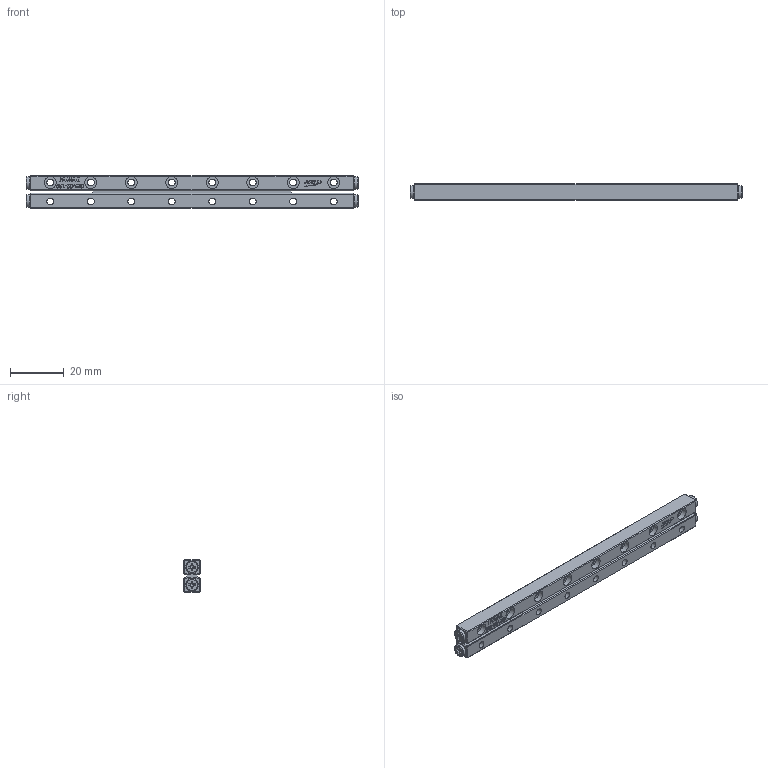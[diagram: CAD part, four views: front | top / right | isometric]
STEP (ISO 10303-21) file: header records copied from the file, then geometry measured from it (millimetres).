
FILE_DESCRIPTION (( 'STEP AP203' ), '1' );
FILE_NAME ('GRV02-120.STEP', '2023-08-18T02:50:12', ( '' ), ( '' ), 'SwSTEP 2.0', 'SolidWorks 2019', '' );
FILE_SCHEMA (( 'CONFIG_CONTROL_DESIGN' ));
Length unit declared in the file: millimetre
Products named in the file (3): GRV02-120; GRVP02-120-模糊化保持器組; GRV02-120-模糊化軌道
Assembly tree (3 placements, depth 2):
  GRV02-120
    GRV02-120-模糊化軌道  x2
    GRVP02-120-模糊化保持器組
Bounding box: 123 x 6 x 12 mm (x, y, z)
Volume: 7189.2 mm3; surface area: 7622.2 mm2
Topology: 3 solids, 3 shells, 970 faces, 2388 edges, 1544 vertices
Faces by surface type: plane 668, bspline 112, cylinder 110, torus 44, cone 36
Full cylindrical faces by diameter (mm): 2.55 x16, 4.4 x16, 4.7 x4
Entity records: 22513 total; most frequent: CARTESIAN_POINT 8144, ORIENTED_EDGE 2990, DIRECTION 2565, EDGE_CURVE 1495, VECTOR 1013, LINE 1013, VERTEX_POINT 984, AXIS2_PLACEMENT_3D 776
